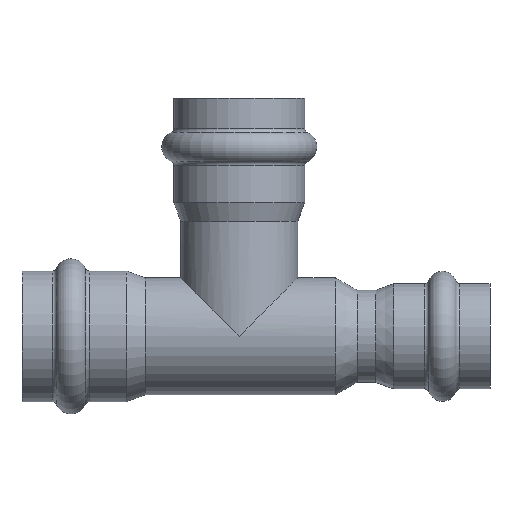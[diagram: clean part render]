
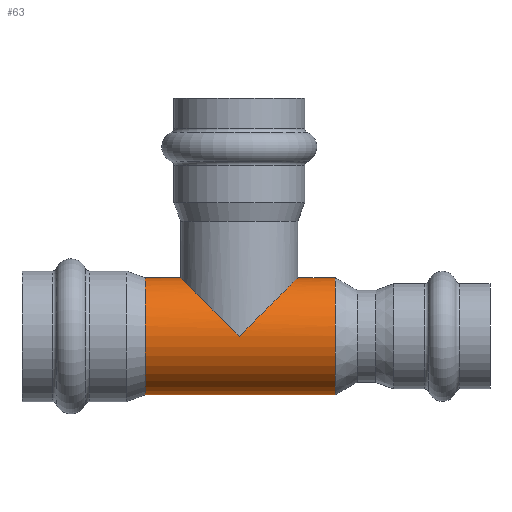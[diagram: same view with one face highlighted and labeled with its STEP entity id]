
A CAD part, left-side view. The second image highlights one B-rep face of the part: STEP entity #63.
In plain terms, the highlighted cylindrical face has radius 14 mm (diameter 28 mm), a full revolution.
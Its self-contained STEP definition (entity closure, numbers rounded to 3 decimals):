
#63=ADVANCED_FACE('',(#172,#174,#176),#178,.T.);
#172=FACE_OUTER_BOUND('',#173,.T.);
#173=EDGE_LOOP('',(#380));
#174=FACE_BOUND('',#175,.T.);
#175=EDGE_LOOP('',(#381,#382));
#176=FACE_BOUND('',#177,.T.);
#177=EDGE_LOOP('',(#383,#384,#385));
#178=CYLINDRICAL_SURFACE('',#179,14.);
#179=AXIS2_PLACEMENT_3D('',#180,#181,#182);
#180=CARTESIAN_POINT('',(0.,-29.478,0.));
#181=DIRECTION('',(0.,-1.,0.));
#182=DIRECTION('',(0.,0.,-1.));
#380=ORIENTED_EDGE('',*,*,#437,.T.);
#381=ORIENTED_EDGE('',*,*,#438,.F.);
#382=ORIENTED_EDGE('',*,*,#439,.F.);
#383=ORIENTED_EDGE('',*,*,#436,.F.);
#384=ORIENTED_EDGE('',*,*,#435,.F.);
#385=ORIENTED_EDGE('',*,*,#434,.F.);
#434=EDGE_CURVE('',#476,#477,#478,.T.);
#435=EDGE_CURVE('',#477,#479,#480,.T.);
#436=EDGE_CURVE('',#479,#476,#481,.F.);
#437=EDGE_CURVE('',#482,#482,#483,.T.);
#438=EDGE_CURVE('',#484,#485,#486,.T.);
#439=EDGE_CURVE('',#485,#484,#487,.T.);
#476=VERTEX_POINT('',#569);
#477=VERTEX_POINT('',#570);
#478=(BOUNDED_CURVE()B_SPLINE_CURVE(3,
(#571,#572,#573,#574),
.UNSPECIFIED.,.F.,.F.)B_SPLINE_CURVE_WITH_KNOTS((4,4),
(0.,1.),
.UNSPECIFIED.)CURVE()GEOMETRIC_REPRESENTATION_ITEM()RATIONAL_B_SPLINE_CURVE((1.,
0.805,0.805,1.))REPRESENTATION_ITEM(''));
#479=VERTEX_POINT('',#575);
#480=(BOUNDED_CURVE()B_SPLINE_CURVE(3,
(#576,#577,#578,#579),
.UNSPECIFIED.,.F.,.F.)B_SPLINE_CURVE_WITH_KNOTS((4,4),
(0.,1.),
.UNSPECIFIED.)CURVE()GEOMETRIC_REPRESENTATION_ITEM()RATIONAL_B_SPLINE_CURVE((1.,
0.805,0.805,1.))REPRESENTATION_ITEM(''));
#481=(BOUNDED_CURVE()B_SPLINE_CURVE(3,
(#580,#581,#582,#583),
.UNSPECIFIED.,.F.,.F.)B_SPLINE_CURVE_WITH_KNOTS((4,4),
(0.,1.),
.UNSPECIFIED.)CURVE()GEOMETRIC_REPRESENTATION_ITEM()RATIONAL_B_SPLINE_CURVE((1.,
0.333,0.333,1.))REPRESENTATION_ITEM(''));
#482=VERTEX_POINT('',#584);
#483=CIRCLE('',#585,14.);
#484=VERTEX_POINT('',#589);
#485=VERTEX_POINT('',#590);
#486=CIRCLE('',#591,14.);
#487=CIRCLE('',#595,14.);
#569=CARTESIAN_POINT('',(14.,-52.,0.));
#570=CARTESIAN_POINT('',(0.,-38.,14.));
#571=CARTESIAN_POINT('',(14.,-52.,0.));
#572=CARTESIAN_POINT('',(14.,-43.799,8.201));
#573=CARTESIAN_POINT('',(8.201,-38.,14.));
#574=CARTESIAN_POINT('',(0.,-38.,14.));
#575=CARTESIAN_POINT('',(-14.,-52.,0.));
#576=CARTESIAN_POINT('',(0.,-38.,14.));
#577=CARTESIAN_POINT('',(-8.201,-38.,14.));
#578=CARTESIAN_POINT('',(-14.,-43.799,8.201));
#579=CARTESIAN_POINT('',(-14.,-52.,0.));
#580=CARTESIAN_POINT('',(14.,-52.,0.));
#581=CARTESIAN_POINT('',(14.,-80.,28.));
#582=CARTESIAN_POINT('',(-14.,-80.,28.));
#583=CARTESIAN_POINT('',(-14.,-52.,0.));
#584=CARTESIAN_POINT('',(0.,-29.478,-14.));
#585=AXIS2_PLACEMENT_3D('',#586,#587,#588);
#586=CARTESIAN_POINT('',(0.,-29.478,0.));
#587=DIRECTION('',(0.,-1.,0.));
#588=DIRECTION('',(0.,0.,-1.));
#589=CARTESIAN_POINT('',(0.,-75.,-14.));
#590=CARTESIAN_POINT('',(0.,-75.,14.));
#591=AXIS2_PLACEMENT_3D('',#592,#593,#594);
#592=CARTESIAN_POINT('',(0.,-75.,0.));
#593=DIRECTION('',(0.,-1.,0.));
#594=DIRECTION('',(0.,0.,-1.));
#595=AXIS2_PLACEMENT_3D('',#596,#597,#598);
#596=CARTESIAN_POINT('',(0.,-75.,0.));
#597=DIRECTION('',(0.,-1.,0.));
#598=DIRECTION('',(0.,0.,1.));
